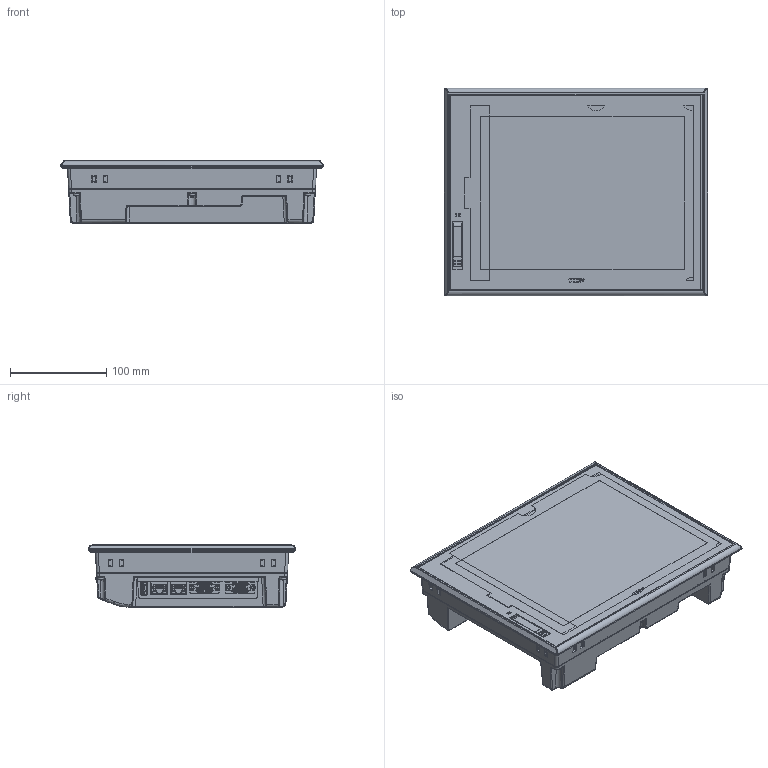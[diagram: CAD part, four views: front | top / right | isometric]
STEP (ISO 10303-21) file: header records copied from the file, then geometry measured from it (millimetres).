
FILE_DESCRIPTION((''),'2;1');
FILE_NAME('TOP-RX10-T0','2016-01-11T',('bckim'),(''),'CREO PARAMETRIC BY PTC INC, 2015290','CREO PARAMETRIC BY PTC INC, 2015290','');
FILE_SCHEMA(('CONFIG_CONTROL_DESIGN'));
Products named in the file (1): TOP-RX10-T0
Bounding box: 274 x 216 x 64.7 mm (x, y, z)
Volume: 1982555.4 mm3; surface area: 441388.4 mm2
Topology: 1 solids, 16 shells, 5303 faces, 14999 edges, 9741 vertices
Faces by surface type: plane 3747, cylinder 1005, bspline 201, torus 157, cone 124, sphere 52, extrusion 17
Entity records: 183657 total; most frequent: CARTESIAN_POINT 47299, ORIENTED_EDGE 29974, DIRECTION 25931, EDGE_CURVE 14987, VECTOR 11361, LINE 11344, VERTEX_POINT 9741, AXIS2_PLACEMENT_3D 7285
